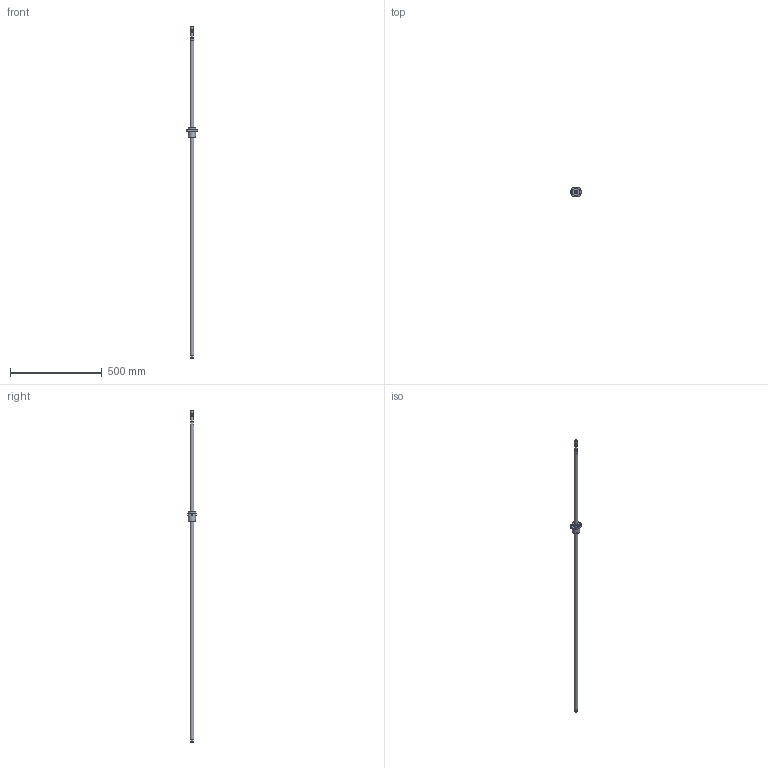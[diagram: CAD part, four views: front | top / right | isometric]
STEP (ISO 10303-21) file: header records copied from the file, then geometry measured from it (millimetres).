
FILE_DESCRIPTION(/* description */ (''),/* implementation_level */ '2;1');
FILE_NAME(/* name */ 'BSG254_asm1.stp',/* time_stamp */ '2017-01-14T09:12:23+08:00',/* author */ (''),/* organization */ (''),/* preprocessor_version */ 'ST-DEVELOPER v15',/* originating_system */ 'SIEMENS PLM Software NX 8.5',/* authorisation */ '');
FILE_SCHEMA (('AUTOMOTIVE_DESIGN { 1 0 10303 214 3 1 1 1 }'));
Length unit declared in the file: millimetre
Products named in the file (3): BSG254; 01; BSG254_asm1
Assembly tree (2 placements, depth 2):
  BSG254_asm1
    01
    BSG254
Bounding box: 62 x 46 x 1810 mm (x, y, z)
Volume: 60188.9 mm3; surface area: 130034.8 mm2
Topology: 1 solids, 2 shells, 82 faces, 215 edges, 146 vertices
Faces by surface type: plane 41, cylinder 37, bspline 2, cone 2
Full cylindrical faces by diameter (mm): 4.5 x4, 5 x1, 5.5 x4, 6 x1, 12 x1, 14.3 x1, 15 x17, 20 x2, 39 x2
Entity records: 5011 total; most frequent: CARTESIAN_POINT 3444, DIRECTION 318, ORIENTED_EDGE 268, EDGE_CURVE 134, AXIS2_PLACEMENT_3D 129, EDGE_LOOP 110, VERTEX_POINT 100, FACE_BOUND 73
